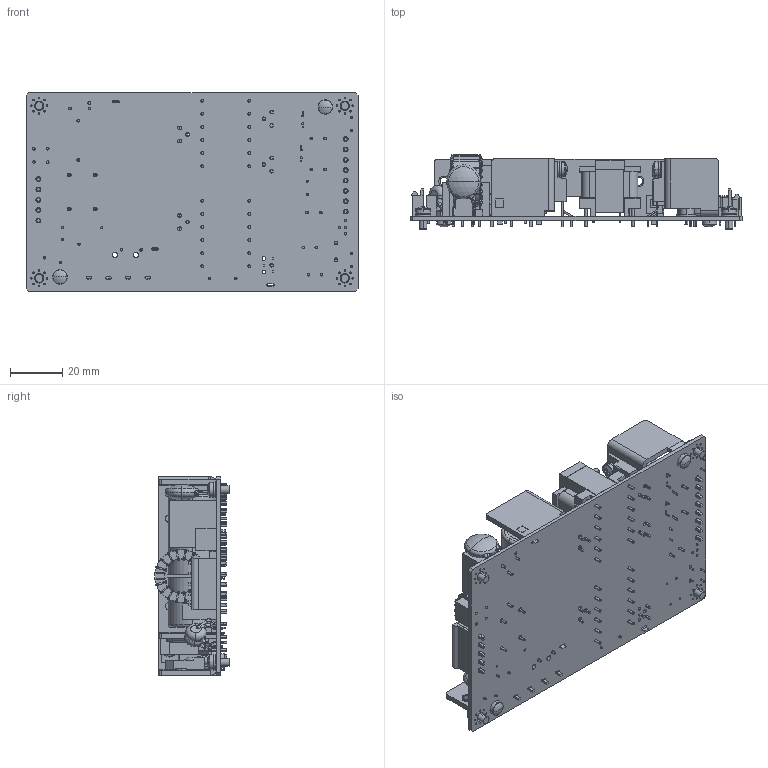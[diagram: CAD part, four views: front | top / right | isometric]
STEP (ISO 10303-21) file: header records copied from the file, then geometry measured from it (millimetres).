
FILE_DESCRIPTION (( 'STEP AP214' ), '1' );
FILE_NAME ('CUT75.STEP', '2014-06-27T09:16:09', ( '' ), ( '' ), 'SwSTEP 2.0', 'SolidWorks 2014', '' );
FILE_SCHEMA (( 'AUTOMOTIVE_DESIGN' ));
Length unit declared in the file: millimetre
Products named in the file (41): TO-220AB_______; CA100-32-32; BOBBIN; JIS B 1111 Cross recessed pan head screw - M3 x 6 - Z --6N; OUTPUT; C54; HS-YCA809-32-02; C6; JIS B 1251 No.2 3; C51; T1; 电容13x20; B8P-VH_B8P-VH; JIS B 1256 Small circular 3; YCA809-32-01; MPX2 0.68u; B5P-VH_B4P-VH; C2; M10010C_DIA13; DE1E3KXxxxxJ4_152M; EMI CHOKE; YCCB163; F1; BRIDGE; PC95EI28-1; ¸´¼þ JIS B 1111 Cross recessed pan head screw - M3 x 6 - Z --6N_JIS B 1111 Cross recessed pan head screw - M3 x 8 - Z --8N; CT-6EMS_______; 电容10x20; YCA809-32-02; PC95EI28; SEMS M3_x6; OUTPUT-1; CUT75
Assembly tree (60 placements, depth 3):
  CUT75
    YCCB163
    B5P-VH_B4P-VH
    B8P-VH_B8P-VH
    C6
    T1
      BOBBIN
      PC95EI28
      PC95EI28-1
    T1
      BOBBIN
      PC95EI28
      PC95EI28-1
    C54  x3
    电容10x20
    电容10x20
    EMI CHOKE
    MPX2 0.68u
    电容13x20
    YCA809-32-02
      HS-YCA809-32-02
      CA100-32-32
    BRIDGE
    YCA809-32-01
      YCA809-32-01
      CA100-32-32  x2
    C51  x2
    OUTPUT  x2
    OUTPUT-1
    CT-6EMS_______
    DE1E3KXxxxxJ4_152M  x3
    TO-220AB_______
    TO-220AB_______
    TO-220AB_______
    TO-220AB_______
    TO-220AB_______
    F1  x2
    C2
    SEMS M3_x6  x9
      JIS B 1256 Small circular 3
      JIS B 1251 No.2 3
      JIS B 1111 Cross recessed pan head screw - M3 x 6 - Z --6N
    ¸´¼þ JIS B 1111 Cross recessed pan head screw - M3 x 6 - Z --6N_JIS B 1111 Cross recessed pan head screw - M3 x 8 - Z --8N  x2
    M10010C_DIA13
Bounding box: 127 x 28.31 x 76 mm (x, y, z)
Volume: 86131.1 mm3; surface area: 70709.6 mm2
Topology: 71 solids, 71 shells, 3115 faces, 7996 edges, 5018 vertices
Faces by surface type: plane 1445, cylinder 1151, torus 280, sphere 116, bspline 69, cone 54
Entity records: 95367 total; most frequent: CARTESIAN_POINT 17519, DIRECTION 13364, ORIENTED_EDGE 12954, EDGE_CURVE 6477, AXIS2_PLACEMENT_3D 4830, VERTEX_POINT 4129, LINE 3704, VECTOR 3704
